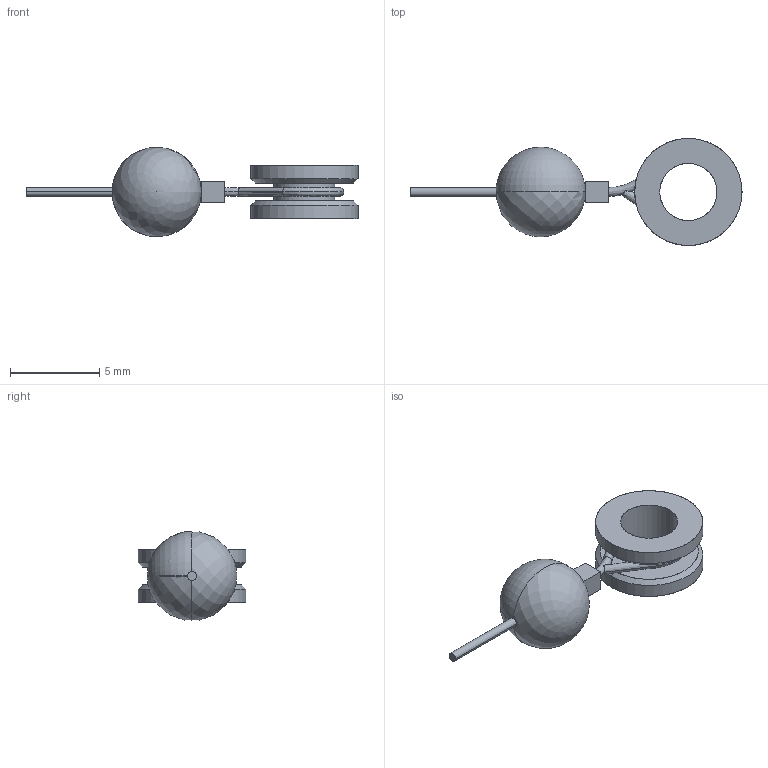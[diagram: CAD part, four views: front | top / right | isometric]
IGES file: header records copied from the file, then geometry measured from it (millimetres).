
Start section: SolidWorks IGES file using analytic representation for surfaces
Bounding box: 18.57 x 6 x 4.99 mm (x, y, z)
Surface area: 327.7 mm2 (no closed solid volume)
Topology: 0 solids, 0 shells, 40 faces, 468 edges, 467 vertices
Faces by surface type: revolution 22, bspline 18
